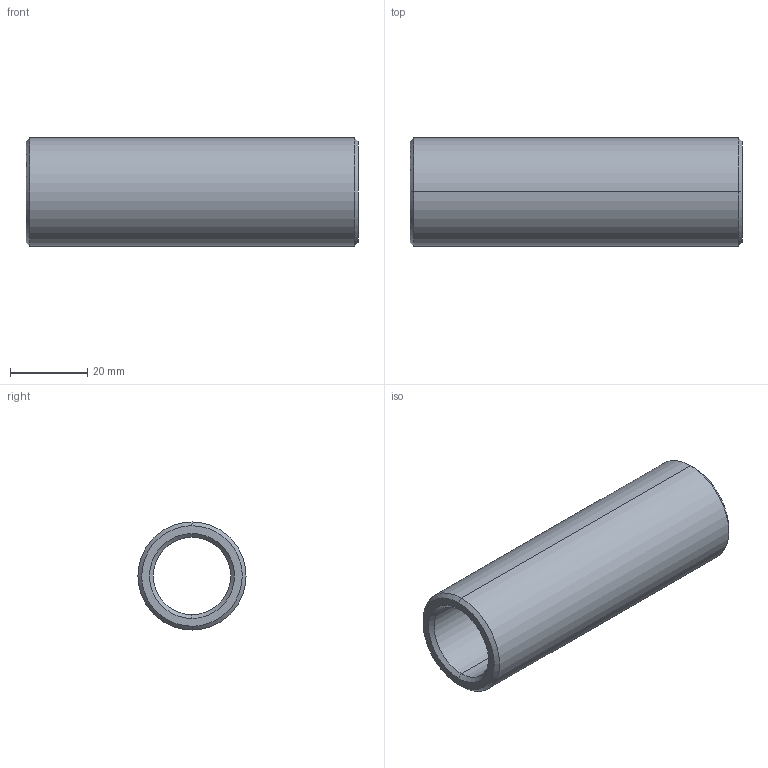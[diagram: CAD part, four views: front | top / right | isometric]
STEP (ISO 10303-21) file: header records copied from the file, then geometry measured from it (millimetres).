
FILE_DESCRIPTION(('CATIA V5 STEP Exchange'),'2;1');
FILE_NAME('C:\Users\Utente\Desktop\IO LAVORO\3D X SITO CF\X SITO\PLASTICA\352\352-20X86.stp','2021-04-10T09:31:37+00:00',('none'),('none'),'CATIA Version 5 Release 20 GA (IN-10)','CATIA V5 STEP AP203','none');
FILE_SCHEMA(('CONFIG_CONTROL_DESIGN'));
Length unit declared in the file: millimetre
Products named in the file (1): 352-20X86
Bounding box: 86 x 28 x 28 mm (x, y, z)
Volume: 25804.9 mm3; surface area: 13404 mm2
Topology: 1 solids, 1 shells, 14 faces, 44 edges, 32 vertices
Faces by surface type: cone 6, cylinder 4, plane 2, torus 2
Entity records: 634 total; most frequent: CARTESIAN_POINT 203, ORIENTED_EDGE 88, DIRECTION 64, EDGE_CURVE 44, AXIS2_PLACEMENT_3D 41, VERTEX_POINT 32, CIRCLE 26, EDGE_LOOP 16
